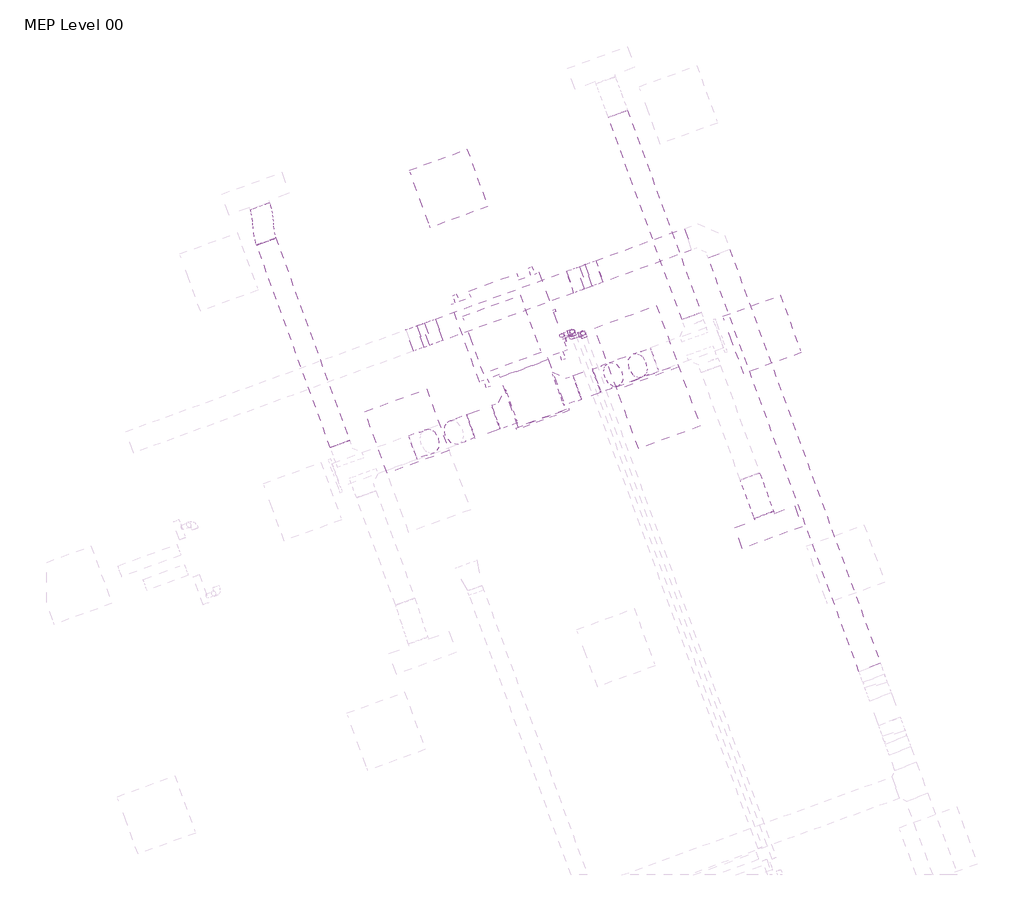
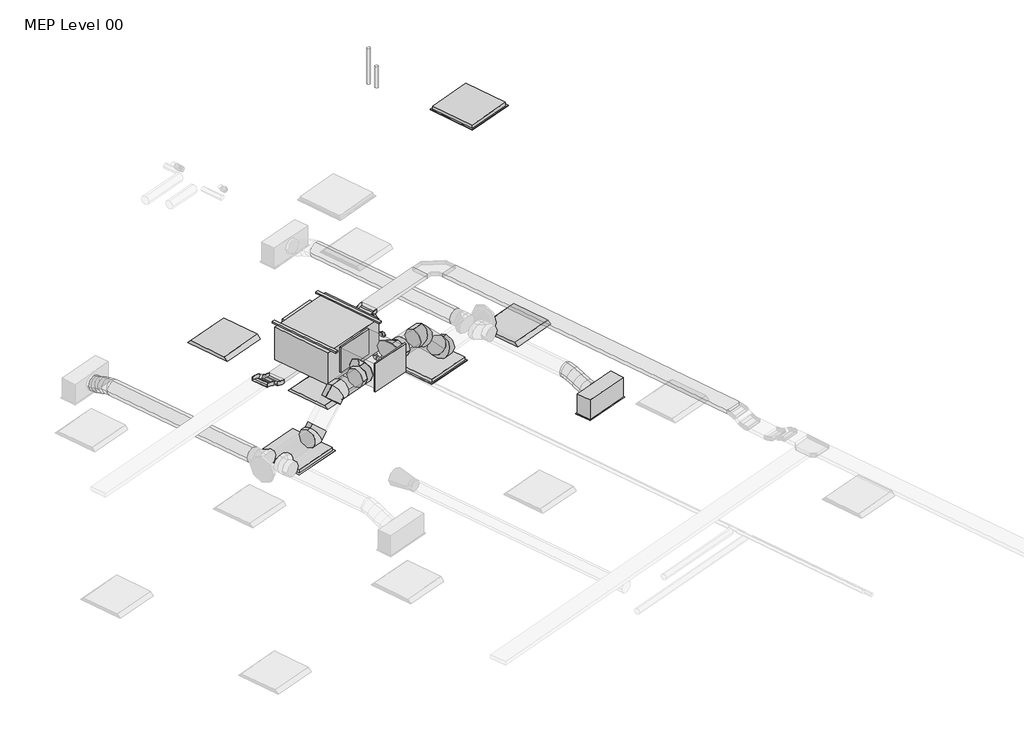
# One storey, part 32 of 33: 8 duct segments, 7 duct fittings, 6 pipe segments, 5 cable carrier segments, 4 air terminals, 4 cable carrier fittings, 4 pipe fittings, 3 light fixtures, 1 proxy.
"""IFC4 building model written with IfcOpenShell, lengths in millimetres."""

from ifc_helpers import new_model, si_unit, point, frame, frame_2d, origin, place, context, project, spatial, polyline, circle_curve, ellipse_curve, trimmed, segment, composite_curve, outline, extrude, transform, mapped, element, save
from ifc_brep_helpers import plane_surface, cylinder_surface, advanced_brep
from components import return_grille_rectangular_hosted_standard_7b12617c, supply_diffuser_with_plenum_linear_slot_hosted_8c379eed, fan_coil_unit_ceiling_ducted_chw_376_lps_233c1d69, cable_tray_vertical_inside_bend_standard_9a66f55b, cable_tray_vertical_outside_bend_standard_4df2047e, dw144_rectangular_blank_end_standard_1669e3e3, dw144_round_segmented_bend_slip_joint_standard_636bd9c1, dw144_round_shoe_branch_slip_joint_standard_4a92c8a1, dw144_round_shoe_branch_slip_joint_standard_671412f0, light_fixture_600x600_230_1c7c1157, light_fixture_600x600_230_b730b5ca, elbow_threaded_gmi_standard_b4aa7741

model = new_model("IFC4")

# Units and contexts
model_context = context("Model", 3, world=origin())
ifc_project = project(units=[si_unit("LENGTHUNIT", "METRE", prefix="MILLI")], contexts=[model_context])

# Site, building, storey
site = spatial("IfcSite", under=ifc_project)
building = spatial("IfcBuilding", under=site)
storey = spatial("IfcBuildingStorey", under=building, Name="MEP Level 00", Elevation=0.0)

# Air terminals
placement = place(None, origin())
return_grille_rectangular_hosted_standard_shape = return_grille_rectangular_hosted_standard_7b12617c(model_context)
element("IfcAirTerminal", 1, ObjectType="Return Grille - Rectangular - Hosted : Standard", at=placement, inside=storey, context=model_context, shape_type="MappedRepresentation", body=[
    mapped(return_grille_rectangular_hosted_standard_shape, transform((57415.537706, 21278.3997704, 2800.0), x_axis=(0.939692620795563, 0.34202014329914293, 0.0), y_axis=(0.34202014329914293, -0.939692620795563, 0.0), z_axis=(0.0, 0.0, -1.0))),
])
element("IfcAirTerminal", 2, ObjectType="Return Grille - Rectangular - Hosted : Standard", at=placement, inside=storey, context=model_context, shape_type="MappedRepresentation", body=[
    mapped(return_grille_rectangular_hosted_standard_shape, transform((59670.7999959, 22099.2481143, 2800.0), x_axis=(0.939692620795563, 0.34202014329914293, 0.0), y_axis=(0.34202014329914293, -0.939692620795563, 0.0), z_axis=(0.0, 0.0, -1.0))),
])
element("IfcAirTerminal", 3, ObjectType="Return Grille - Rectangular - Hosted : Standard", at=placement, inside=storey, context=model_context, shape_type="MappedRepresentation", body=[
    mapped(return_grille_rectangular_hosted_standard_shape, transform((59882.1171416, 21518.6590285, 6700.0), x_axis=(0.939692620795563, 0.34202014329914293, 0.0), y_axis=(0.34202014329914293, -0.939692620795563, 0.0), z_axis=(0.0, 0.0, -1.0))),
])
supply_diffuser_with_plenum_linear_slot_hosted_shape = supply_diffuser_with_plenum_linear_slot_hosted_8c379eed(model_context)
element("IfcAirTerminal", 4, ObjectType="Supply Diffuser with Plenum - Linear Slot - Hosted : 600mmx193.8mm-200 In Inlet  4-Slot", at=placement, inside=storey, context=model_context, shape_type="MappedRepresentation", body=[
    mapped(supply_diffuser_with_plenum_linear_slot_hosted_shape, transform((60963.8522726, 20335.1073322, 2800.0), x_axis=(0.939692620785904, 0.342020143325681, 0.0), y_axis=(0.342020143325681, -0.939692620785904, 0.0), z_axis=(0.0, 0.0, -1.0))),
])

# Proxy
fan_coil_unit_ceiling_ducted_chw_376_lps_shape = fan_coil_unit_ceiling_ducted_chw_376_lps_233c1d69(model_context)
element("IfcBuildingElementProxy", 5, Name="Fan Coil Unit - Ceiling Ducted - CHW : 376 LPS", ObjectType="Fan Coil Unit - Ceiling Ducted - CHW : 376 LPS", at=placement, inside=storey, context=model_context, shape_type="MappedRepresentation", body=[
    mapped(fan_coil_unit_ceiling_ducted_chw_376_lps_shape, transform((58128.3265173, 21761.0235029, 3215.575), x_axis=(0.9396926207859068, 0.34202014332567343, 0.0), y_axis=(-0.34202014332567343, 0.9396926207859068, 0.0), z_axis=(0.0, 0.0, 1.0))),
])

# Cable carrier fittings
cable_tray_vertical_inside_bend_standard_shape = cable_tray_vertical_inside_bend_standard_9a66f55b(model_context)
element("IfcCableCarrierFitting", 6, ObjectType="Cable Tray Vertical Inside Bend : Standard", at=placement, inside=storey, context=model_context, shape_type="MappedRepresentation", body=[
    mapped(cable_tray_vertical_inside_bend_standard_shape, transform((59079.7468169, 22764.6965755, 3148.9627355), x_axis=(0.9396926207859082, 0.34202014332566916, 0.0), y_axis=(0.0, 0.0, 1.0), z_axis=(0.34202014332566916, -0.9396926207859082, 0.0))),
])
element("IfcCableCarrierFitting", 7, ObjectType="Cable Tray Vertical Inside Bend : Standard", at=placement, inside=storey, context=model_context, shape_type="MappedRepresentation", body=[
    mapped(cable_tray_vertical_inside_bend_standard_shape, transform((57668.2710843, 22250.9614225, 3148.9627355), x_axis=(0.8137976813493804, 0.2961981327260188, -0.4999999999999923), y_axis=(0.46984631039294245, 0.1710100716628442, 0.8660254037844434), z_axis=(0.34202014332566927, -0.9396926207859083, 0.0))),
])
cable_tray_vertical_outside_bend_standard_shape = cable_tray_vertical_outside_bend_standard_4df2047e(model_context)
element("IfcCableCarrierFitting", 8, ObjectType="Cable Tray Vertical Outside Bend : Standard", at=placement, inside=storey, context=model_context, shape_type="MappedRepresentation", body=[
    mapped(cable_tray_vertical_outside_bend_standard_shape, transform((59242.5063531, 22823.9362021, 3248.9627355), x_axis=(-0.939692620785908, -0.34202014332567, 0.0), y_axis=(0.0, 0.0, -1.0000000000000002), z_axis=(0.34202014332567, -0.939692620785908, 0.0))),
])
element("IfcCableCarrierFitting", 9, ObjectType="Cable Tray Vertical Outside Bend : Standard", at=placement, inside=storey, context=model_context, shape_type="MappedRepresentation", body=[
    mapped(cable_tray_vertical_outside_bend_standard_shape, transform((57505.5115481, 22191.721796, 3248.9627355), x_axis=(-0.8137976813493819, -0.2961981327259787, 0.5000000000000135), y_axis=(-0.46984631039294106, -0.17101007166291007, -0.866025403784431), z_axis=(0.34202014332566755, -0.9396926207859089, 0.0))),
])

# Cable carrier segments
element("IfcCableCarrierSegment", 10, ObjectType="Perforated Cable Tray", at=placement, inside=storey, context=model_context, shape_type="SweptSolid", body=[
    extrude(outline(polyline([(62063.4626623, 18996.1091889), (61852.0318226, 18919.1546567), (60373.0325165, 22982.6718536), (60584.4633562, 23059.6263859), (62063.4626623, 18996.1091889)])), frame((0.0, 0.0, 3223.9627355), z_axis=(0.0, 0.0, 1.0), x_axis=(1.0, 0.0, 0.0)), (0.0, 0.0, 1.0), 50.0),
])
element("IfcCableCarrierSegment", 11, ObjectType="Perforated Cable Tray", at=placement, inside=storey, context=model_context, shape_type="SweptSolid", body=[
    extrude(outline(polyline([(60135.8638887, 23268.811753), (60212.818421, 23057.3809133), (59343.931089, 22741.1317875), (59266.9765567, 22952.5626272), (60135.8638887, 23268.811753)])), frame((0.0, 0.0, 3223.9627355), z_axis=(0.0, 0.0, 1.0), x_axis=(1.0, 0.0, 0.0)), (0.0, 0.0, 1.0), 50.0),
])
element("IfcCableCarrierSegment", 12, ObjectType="Perforated Cable Tray", at=placement, inside=storey, context=model_context, shape_type="SweptSolid", body=[
    extrude(outline(polyline([(0.0, -225.0), (0.0, 0.0), (66.0254038, 0.0), (66.0254037, -225.0), (0.0, -225.0)])), frame((59238.2156691, 22702.6545214, 3193.8184513), z_axis=(-0.46984631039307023, -0.1710100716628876, 0.8660254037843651), x_axis=(-0.8137976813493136, -0.29619813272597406, -0.5000000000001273)), (0.0, 0.0, 1.0), 50.0),
])
element("IfcCableCarrierSegment", 13, ObjectType="Perforated Cable Tray", at=placement, inside=storey, context=model_context, shape_type="SweptSolid", body=[
    extrude(outline(polyline([(58978.322081, 22847.5009901), (59055.2766133, 22636.0701504), (57769.6958202, 22168.157008), (57692.7412879, 22379.5878476), (58978.322081, 22847.5009901)])), frame((0.0, 0.0, 3123.9627355), z_axis=(0.0, 0.0, 1.0), x_axis=(1.0, 0.0, 0.0)), (0.0, 0.0, 1.0), 50.0),
])
element("IfcCableCarrierSegment", 14, ObjectType="Perforated Cable Tray", at=placement, inside=storey, context=model_context, shape_type="SweptSolid", body=[
    extrude(outline(polyline([(0.0, -224.9999999), (0.0, 0.0), (66.0254038, 1e-07), (66.0254038, -224.9999999), (0.0, -224.9999999)])), frame((57640.4880848, 22121.1292383, 3160.8057494), z_axis=(0.4698463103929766, 0.17101007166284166, 0.8660254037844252), x_axis=(-0.8137976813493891, -0.29619813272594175, 0.5000000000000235)), (0.0, 0.0, 1.0), 50.0),
])

# Duct fittings
dw144_rectangular_blank_end_standard_shape = dw144_rectangular_blank_end_standard_1669e3e3(model_context)
element("IfcDuctFitting", 15, ObjectType="DW144 Rectangular Blank End : Standard", at=placement, inside=storey, context=model_context, shape_type="MappedRepresentation", body=[
    mapped(dw144_rectangular_blank_end_standard_shape, transform((58744.3549616, 21405.2626341, 3469.575), x_axis=(0.34202014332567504, -0.9396926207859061, 0.0), y_axis=(0.9396926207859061, 0.34202014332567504, 0.0), z_axis=(0.0, 0.0, 1.0))),
])
dw144_round_segmented_bend_slip_joint_standard_shape = dw144_round_segmented_bend_slip_joint_standard_636bd9c1(model_context)
element("IfcDuctFitting", 16, ObjectType="DW144 Round Segmented Bend - Slip Joint : Standard", at=placement, inside=storey, context=model_context, shape_type="MappedRepresentation", body=[
    mapped(dw144_round_segmented_bend_slip_joint_standard_shape, transform((59747.3782824, 21945.6768101, 3072.2088531), x_axis=(0.6644630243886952, 0.24184476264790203, -0.7071067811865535), y_axis=(0.6644630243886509, 0.2418447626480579, 0.7071067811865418), z_axis=(0.3420201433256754, -0.939692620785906, 0.0))),
])
element("IfcDuctFitting", 17, ObjectType="DW144 Round Segmented Bend - Slip Joint : Standard", at=placement, inside=storey, context=model_context, shape_type="MappedRepresentation", body=[
    mapped(dw144_round_segmented_bend_slip_joint_standard_shape, transform((59373.9762464, 21809.7695836, 3469.575), x_axis=(0.9396926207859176, 0.3420201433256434, 0.0), y_axis=(0.0, 0.0, -1.0), z_axis=(-0.3420201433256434, 0.9396926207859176, 0.0))),
])
element("IfcDuctFitting", 18, ObjectType="DW144 Round Segmented Bend - Slip Joint : Standard", at=placement, inside=storey, context=model_context, shape_type="MappedRepresentation", body=[
    mapped(dw144_round_segmented_bend_slip_joint_standard_shape, transform((57572.2414269, 21153.9917392, 3072.2088531), x_axis=(-0.6644630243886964, -0.24184476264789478, -0.7071067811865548), y_axis=(-0.6644630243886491, -0.24184476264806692, 0.7071067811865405), z_axis=(-0.34202014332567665, 0.9396926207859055, 0.0))),
])
element("IfcDuctFitting", 19, ObjectType="DW144 Round Segmented Bend - Slip Joint : Standard", at=placement, inside=storey, context=model_context, shape_type="MappedRepresentation", body=[
    mapped(dw144_round_segmented_bend_slip_joint_standard_shape, transform((57945.6434628, 21289.8989657, 3469.575), x_axis=(-0.9396926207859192, -0.3420201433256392, 0.0), y_axis=(0.0, 0.0, -1.0000000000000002), z_axis=(0.3420201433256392, -0.9396926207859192, 0.0))),
])
dw144_round_shoe_branch_slip_joint_standard_shape = dw144_round_shoe_branch_slip_joint_standard_4a92c8a1(model_context)
element("IfcDuctFitting", 20, ObjectType="DW144 Round Shoe Branch - Slip Joint : Standard", at=placement, inside=storey, context=model_context, shape_type="MappedRepresentation", body=[
    mapped(dw144_round_shoe_branch_slip_joint_standard_shape, transform((58922.9237884, 21645.5999148, 3469.575), x_axis=(0.9396926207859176, 0.3420201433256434, 0.0), y_axis=(0.3420201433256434, -0.9396926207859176, 0.0), z_axis=(0.0, 0.0, -1.0))),
])
dw144_round_shoe_branch_slip_joint_standard_2_shape = dw144_round_shoe_branch_slip_joint_standard_671412f0(model_context)
element("IfcDuctFitting", 21, ObjectType="DW144 Round Shoe Branch - Slip Joint : Standard", at=placement, inside=storey, context=model_context, shape_type="MappedRepresentation", body=[
    mapped(dw144_round_shoe_branch_slip_joint_standard_2_shape, transform((58453.077478, 21474.5898431, 3469.575), x_axis=(-0.9396926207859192, -0.3420201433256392, 0.0), y_axis=(-0.3420201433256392, 0.9396926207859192, 0.0), z_axis=(0.0, 0.0, -1.0))),
])

# Duct segments
element("IfcDuctSegment", 22, ObjectType="DW144 Flanged Med Radius Bend / Shoe Branch", at=placement, inside=storey, context=model_context, shape_type="SweptSolid", body=[
    extrude(outline(polyline([(58331.71814, 21808.0218841), (58801.5644504, 21979.0319557), (58979.2781168, 21490.76767), (58509.4318064, 21319.7575983), (58331.71814, 21808.0218841)])), frame((0.0, 0.0, 3294.575), z_axis=(0.0, 0.0, 1.0), x_axis=(1.0, 0.0, 0.0)), (0.0, 0.0, 1.0), 350.0),
])
element("IfcDuctSegment", 23, ObjectType="DW144 Segmented Bend / Shoe Branch", at=placement, inside=storey, context=model_context, shape_type="SweptSolid", body=[
    extrude(outline(composite_curve([segment(trimmed(circle_curve(frame_2d((0.0, 100.0)), 100.0), [point((100.0, 100.0))], [point((0.0, 0.0))], False, "CARTESIAN"), True, "CONTINUOUS"), segment(trimmed(circle_curve(frame_2d((0.0, 100.0)), 100.0), [point((0.0, 0.0))], [point((-100.0, 100.0))], False, "CARTESIAN"), True, "CONTINUOUS"), segment(trimmed(circle_curve(frame_2d((0.0, 100.0)), 100.0), [point((-100.0, 100.0))], [point((0.0, 200.0))], False, "CARTESIAN"), True, "CONTINUOUS"), segment(trimmed(circle_curve(frame_2d((0.0, 100.0)), 100.0), [point((0.0, 200.0))], [point((100.0, 100.0))], False, "CARTESIAN"), True, "CONTINUOUS")], self_intersect=False)), frame((60209.8692558, 22406.6586454, 3172.2088531), z_axis=(-0.3420201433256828, 0.9396926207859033, 0.0), x_axis=(0.9396926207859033, 0.3420201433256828, 0.0)), (0.0, 0.0, 1.0), 2117.1993191),
])
element("IfcDuctSegment", 24, ObjectType="DW144 Segmented Bend / Shoe Branch", at=placement, inside=storey, context=model_context, shape_type="SweptSolid", body=[
    extrude(outline(composite_curve([segment(trimmed(circle_curve(frame_2d((0.0, -100.0)), 100.0), [point((-100.0, -100.0))], [point((0.0, 0.0))], False, "CARTESIAN"), True, "CONTINUOUS"), segment(trimmed(circle_curve(frame_2d((0.0, -100.0)), 100.0), [point((0.0, 0.0))], [point((99.9999999, -100.0))], False, "CARTESIAN"), True, "CONTINUOUS"), segment(trimmed(circle_curve(frame_2d((0.0, -100.0)), 100.0), [point((99.9999999, -100.0))], [point((0.0, -200.0))], False, "CARTESIAN"), True, "CONTINUOUS"), segment(trimmed(circle_curve(frame_2d((0.0, -100.0)), 100.0), [point((0.0, -200.0))], [point((-100.0, -100.0))], False, "CARTESIAN"), True, "CONTINUOUS")], self_intersect=False)), frame((56758.4236669, 21150.4351859, 2972.2088531), z_axis=(-0.3420201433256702, 0.9396926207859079, 0.0), x_axis=(0.9396926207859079, 0.3420201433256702, 0.0)), (0.0, 0.0, 1.0), 2117.1993191),
])
element("IfcDuctSegment", 25, ObjectType="DW144 Segmented Bend / Shoe Branch", at=placement, inside=storey, context=model_context, shape_type="SweptSolid", body=[
    extrude(outline(composite_curve([segment(trimmed(circle_curve(frame_2d((0.0, 125.0)), 125.0), [point((125.0, 125.0))], [point((0.0, 0.0))], False, "CARTESIAN"), True, "CONTINUOUS"), segment(trimmed(circle_curve(frame_2d((0.0, 125.0)), 125.0), [point((0.0, 0.0))], [point((-125.0, 125.0))], False, "CARTESIAN"), True, "CONTINUOUS"), segment(trimmed(circle_curve(frame_2d((0.0, 125.0)), 125.0), [point((-125.0, 125.0))], [point((0.0, 250.0))], False, "CARTESIAN"), True, "CONTINUOUS"), segment(trimmed(circle_curve(frame_2d((0.0, 125.0)), 125.0), [point((0.0, 250.0))], [point((125.0, 125.0))], False, "CARTESIAN"), True, "CONTINUOUS")], self_intersect=False)), frame((59087.3699971, 21705.4534398, 3594.575), z_axis=(0.9396926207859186, 0.3420201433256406, 0.0), x_axis=(0.3420201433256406, -0.9396926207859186, 0.0)), (0.0, 0.0, 1.0), 201.4466094),
])
element("IfcDuctSegment", 26, ObjectType="DW144 Segmented Bend / Shoe Branch", at=placement, inside=storey, context=model_context, shape_type="SweptSolid", body=[
    extrude(outline(composite_curve([segment(trimmed(circle_curve(frame_2d((0.0, -125.0)), 125.0), [point((-125.0, -125.0))], [point((0.0, 0.0))], False, "CARTESIAN"), True, "CONTINUOUS"), segment(trimmed(circle_curve(frame_2d((0.0, -125.0)), 125.0), [point((0.0, 0.0))], [point((125.0, -125.0))], False, "CARTESIAN"), True, "CONTINUOUS"), segment(trimmed(circle_curve(frame_2d((0.0, -125.0)), 125.0), [point((125.0, -125.0))], [point((0.0, -250.0))], False, "CARTESIAN"), True, "CONTINUOUS"), segment(trimmed(circle_curve(frame_2d((0.0, -125.0)), 125.0), [point((0.0, -250.0))], [point((-125.0, -125.0))], False, "CARTESIAN"), True, "CONTINUOUS")], self_intersect=False)), frame((58042.9518198, 21325.3163112, 3344.575), z_axis=(0.9396926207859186, 0.3420201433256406, 0.0), x_axis=(0.3420201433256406, -0.9396926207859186, 0.0)), (0.0, 0.0, 1.0), 261.4466094),
])
element("IfcDuctSegment", 27, ObjectType="DW144 Segmented Bend / Shoe Branch", at=placement, inside=storey, context=model_context, shape_type="SweptSolid", body=[
    extrude(outline(composite_curve([segment(trimmed(circle_curve(frame_2d((0.0, -125.0)), 125.0), [point((57.2076922, -236.1408113))], [point((-111.1408114, -182.2076922))], False, "CARTESIAN"), True, "CONTINUOUS"), segment(trimmed(circle_curve(frame_2d((0.0, -125.0)), 125.0), [point((-111.1408114, -182.2076922))], [point((-57.2076923, -13.8591886))], False, "CARTESIAN"), True, "CONTINUOUS"), segment(trimmed(circle_curve(frame_2d((0.0, -125.0)), 125.0), [point((-57.2076923, -13.8591886))], [point((111.1408113, -67.7923077))], False, "CARTESIAN"), True, "CONTINUOUS"), segment(trimmed(circle_curve(frame_2d((0.0, -125.0)), 125.0), [point((111.1408113, -67.7923077))], [point((57.2076922, -236.1408113))], False, "CARTESIAN"), True, "CONTINUOUS")], self_intersect=False)), frame((59678.5708833, 22038.9065459, 3185.884105), z_axis=(-0.6644630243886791, -0.2418447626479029, 0.7071067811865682), x_axis=(0.7473211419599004, -0.21503058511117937, 0.6287073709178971)), (0.0, 0.0, 1.0), 354.8538129),
])
element("IfcDuctSegment", 28, ObjectType="Flex - Round", at=placement, inside=storey, context=model_context, shape_type="AdvancedBrep", body=[
    advanced_brep(
    [(60875.9700465, 20868.9422039, 3072.2088531), (60782.0007844, 20834.7401896, 2972.2088531), (60688.0315224, 20800.5381753, 3072.2088531), (60782.0007844, 20834.7401896, 3172.2088531), (60882.0280653, 20852.2979342, 3072.2088531), (60784.3796055, 20828.2044324, 2972.2088531), (60694.0895411, 20783.8939055, 3072.2088531), (60791.7380009, 20807.9874073, 3172.2088531), (61013.7351382, 20490.4357254, 2954.4), (60919.7658761, 20456.233711, 3054.4), (60825.796614, 20422.0316967, 2954.4), (60919.7658761, 20456.233711, 2854.4), (60910.9523954, 20772.8289904, 3053.8012198), (60806.8015614, 20766.600615, 2957.9393734), (60723.0138712, 20704.4249618, 3053.8012198), (60827.1647052, 20710.6533371, 3149.6630662), (60944.8525924, 20679.6889646, 3013.3044266), (60837.9473613, 20681.0282329, 2920.7329518), (60756.9140682, 20611.284936, 3013.3044266), (60863.8192992, 20609.9456677, 3105.8759013), (60978.7527894, 20586.5489389, 2972.8076333), (60874.6019553, 20580.3205635, 2876.9457869), (60790.8142652, 20518.1449102, 2972.8076333), (60894.9650992, 20524.3732856, 3068.6694797), (61007.6771194, 20507.0799951, 2954.4), (60910.0286597, 20482.9864933, 2854.4), (60819.7385953, 20438.6759664, 2954.4), (60917.387055, 20462.7694682, 3054.4)],
    [
        (0, 1, circle_curve(frame((60782.0007844, 20834.7401896, 3072.2088531), z_axis=(-0.3420201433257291, 0.9396926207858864, 0.0), x_axis=(0.9396926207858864, 0.3420201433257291, 0.0)), 100.0)),
        (1, 2, circle_curve(frame((60782.0007844, 20834.7401896, 3072.2088531), z_axis=(-0.3420201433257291, 0.9396926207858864, 0.0), x_axis=(0.9396926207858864, 0.3420201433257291, 0.0)), 100.0)),
        (2, 3, circle_curve(frame((60782.0007844, 20834.7401896, 3072.2088531), z_axis=(-0.3420201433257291, 0.9396926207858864, 0.0), x_axis=(0.9396926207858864, 0.3420201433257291, 0.0)), 100.0)),
        (3, 0, circle_curve(frame((60782.0007844, 20834.7401896, 3072.2088531), z_axis=(-0.3420201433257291, 0.9396926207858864, 0.0), x_axis=(0.9396926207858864, 0.3420201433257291, 0.0)), 100.0)),
        (0, 4),
        (4, 5, ellipse_curve(frame((60788.0588032, 20818.0959199, 3072.2088531), z_axis=(-0.34005825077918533, 0.9343023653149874, 0.1069554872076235), x_axis=(-0.03658093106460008, 0.10050528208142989, -0.9942638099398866)), 100.5769284, 100.0)),
        (5, 1),
        (5, 6, ellipse_curve(frame((60788.0588032, 20818.0959199, 3072.2088531), z_axis=(-0.34005825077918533, 0.9343023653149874, 0.1069554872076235), x_axis=(-0.03658093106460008, 0.10050528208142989, -0.9942638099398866)), 100.5769284, 100.0)),
        (6, 2),
        (6, 7, ellipse_curve(frame((60788.0588032, 20818.0959199, 3072.2088531), z_axis=(-0.34005825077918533, 0.9343023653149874, 0.1069554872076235), x_axis=(-0.03658093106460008, 0.10050528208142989, -0.9942638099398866)), 100.5769284, 100.0)),
        (7, 3),
        (7, 4, ellipse_curve(frame((60788.0588032, 20818.0959199, 3072.2088531), z_axis=(-0.34005825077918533, 0.9343023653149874, 0.1069554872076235), x_axis=(-0.03658093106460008, 0.10050528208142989, -0.9942638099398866)), 100.5769284, 100.0)),
        (8, 9, circle_curve(frame((60919.7658761, 20456.233711, 2954.4), z_axis=(0.3420201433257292, -0.9396926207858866, 0.0), x_axis=(0.9396926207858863, 0.34202014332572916, 0.0)), 100.0)),
        (9, 10, circle_curve(frame((60919.7658761, 20456.233711, 2954.4), z_axis=(0.3420201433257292, -0.9396926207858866, 0.0), x_axis=(0.9396926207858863, 0.34202014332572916, 0.0)), 100.0)),
        (10, 11, circle_curve(frame((60919.7658761, 20456.233711, 2954.4), z_axis=(0.3420201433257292, -0.9396926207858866, 0.0), x_axis=(0.9396926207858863, 0.34202014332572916, 0.0)), 100.0)),
        (11, 8, circle_curve(frame((60919.7658761, 20456.233711, 2954.4), z_axis=(0.3420201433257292, -0.9396926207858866, 0.0), x_axis=(0.9396926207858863, 0.34202014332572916, 0.0)), 100.0)),
        (4, 12),
        (12, 13, ellipse_curve(frame((60816.9831333, 20738.6269761, 3053.8012198), z_axis=(-0.32663313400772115, 0.897417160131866, 0.2965691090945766), x_axis=(-0.10143260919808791, 0.2786838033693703, -0.9550113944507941)), 100.3776991, 100.0)),
        (13, 5),
        (13, 14, ellipse_curve(frame((60816.9831333, 20738.6269761, 3053.8012198), z_axis=(-0.32663313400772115, 0.897417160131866, 0.2965691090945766), x_axis=(-0.10143260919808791, 0.2786838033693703, -0.9550113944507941)), 100.3776991, 100.0)),
        (14, 6),
        (14, 15, ellipse_curve(frame((60816.9831333, 20738.6269761, 3053.8012198), z_axis=(-0.32663313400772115, 0.897417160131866, 0.2965691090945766), x_axis=(-0.10143260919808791, 0.2786838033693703, -0.9550113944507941)), 100.3776991, 100.0)),
        (15, 7),
        (15, 12, ellipse_curve(frame((60816.9831333, 20738.6269761, 3053.8012198), z_axis=(-0.32663313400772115, 0.897417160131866, 0.2965691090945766), x_axis=(-0.10143260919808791, 0.2786838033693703, -0.9550113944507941)), 100.3776991, 100.0)),
        (12, 16),
        (16, 17, circle_curve(frame((60850.8833303, 20645.4869503, 3013.3044266), z_axis=(-0.31661309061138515, 0.8698873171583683, 0.3782224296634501), x_axis=(0.939692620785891, 0.34202014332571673, 0.0)), 100.0)),
        (17, 13),
        (17, 18, circle_curve(frame((60850.8833303, 20645.4869503, 3013.3044266), z_axis=(-0.31661309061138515, 0.8698873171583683, 0.3782224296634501), x_axis=(0.939692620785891, 0.34202014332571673, 0.0)), 100.0)),
        (18, 14),
        (18, 19, circle_curve(frame((60850.8833303, 20645.4869503, 3013.3044266), z_axis=(-0.31661309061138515, 0.8698873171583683, 0.3782224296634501), x_axis=(0.939692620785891, 0.34202014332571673, 0.0)), 100.0)),
        (19, 15),
        (19, 16, circle_curve(frame((60850.8833303, 20645.4869503, 3013.3044266), z_axis=(-0.31661309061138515, 0.8698873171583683, 0.3782224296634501), x_axis=(0.939692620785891, 0.34202014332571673, 0.0)), 100.0)),
        (16, 20),
        (20, 21, ellipse_curve(frame((60884.7835273, 20552.3469245, 2972.8076333), z_axis=(-0.3266331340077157, 0.897417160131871, 0.29656910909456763), x_axis=(0.10143260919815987, -0.2786838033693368, 0.9550113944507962)), 100.3776991, 100.0)),
        (21, 17),
        (21, 22, ellipse_curve(frame((60884.7835273, 20552.3469245, 2972.8076333), z_axis=(-0.3266331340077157, 0.897417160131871, 0.29656910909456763), x_axis=(0.10143260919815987, -0.2786838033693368, 0.9550113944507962)), 100.3776991, 100.0)),
        (22, 18),
        (22, 23, ellipse_curve(frame((60884.7835273, 20552.3469245, 2972.8076333), z_axis=(-0.3266331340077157, 0.897417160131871, 0.29656910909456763), x_axis=(0.10143260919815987, -0.2786838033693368, 0.9550113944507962)), 100.3776991, 100.0)),
        (23, 19),
        (23, 20, ellipse_curve(frame((60884.7835273, 20552.3469245, 2972.8076333), z_axis=(-0.3266331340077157, 0.897417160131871, 0.29656910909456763), x_axis=(0.10143260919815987, -0.2786838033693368, 0.9550113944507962)), 100.3776991, 100.0)),
        (20, 24),
        (24, 25, ellipse_curve(frame((60913.7078574, 20472.8779808, 2954.4), z_axis=(-0.3400582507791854, 0.9343023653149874, 0.10695548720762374), x_axis=(0.03658093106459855, -0.10050528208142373, 0.9942638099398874)), 100.5769284, 100.0)),
        (25, 21),
        (25, 26, ellipse_curve(frame((60913.7078574, 20472.8779808, 2954.4), z_axis=(-0.3400582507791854, 0.9343023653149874, 0.10695548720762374), x_axis=(0.03658093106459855, -0.10050528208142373, 0.9942638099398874)), 100.5769284, 100.0)),
        (26, 22),
        (26, 27, ellipse_curve(frame((60913.7078574, 20472.8779808, 2954.4), z_axis=(-0.3400582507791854, 0.9343023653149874, 0.10695548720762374), x_axis=(0.03658093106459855, -0.10050528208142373, 0.9942638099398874)), 100.5769284, 100.0)),
        (27, 23),
        (27, 24, ellipse_curve(frame((60913.7078574, 20472.8779808, 2954.4), z_axis=(-0.3400582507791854, 0.9343023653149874, 0.10695548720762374), x_axis=(0.03658093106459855, -0.10050528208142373, 0.9942638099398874)), 100.5769284, 100.0)),
        (24, 8),
        (11, 25),
        (10, 26),
        (9, 27),
    ],
    [
        plane_surface(frame((60782.0007844, 20834.7401896, 2972.2088531), z_axis=(-0.3420201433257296, 0.9396926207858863, 0.0), x_axis=(0.9396926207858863, 0.3420201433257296, 0.0))),
        cylinder_surface(frame((60782.0007844, 20834.7401896, 3072.2088531), z_axis=(-0.3420201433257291, 0.9396926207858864, 0.0), x_axis=(0.9396926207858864, 0.3420201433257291, 0.0)), 100.0),
        plane_surface(frame((60919.7658761, 20456.233711, 2854.4), z_axis=(0.3420201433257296, -0.9396926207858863, 0.0), x_axis=(0.9396926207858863, 0.3420201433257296, 0.0))),
        cylinder_surface(frame((60788.0588032, 20818.0959199, 3072.2088531), z_axis=(-0.3341950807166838, 0.9181934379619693, 0.21268394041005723), x_axis=(0.9396926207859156, 0.342020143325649, 0.0)), 100.0),
        cylinder_surface(frame((60816.9831333, 20738.6269761, 3053.8012198), z_axis=(-0.31661309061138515, 0.8698873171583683, 0.3782224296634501), x_axis=(0.939692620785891, 0.34202014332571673, 0.0)), 100.0),
        cylinder_surface(frame((60850.8833303, 20645.4869503, 3013.3044266), z_axis=(-0.3166130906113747, 0.8698873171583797, 0.37822242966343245), x_axis=(0.9396926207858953, 0.3420201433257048, 0.0)), 100.0),
        cylinder_surface(frame((60884.7835273, 20552.3469245, 2972.8076333), z_axis=(-0.3341950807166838, 0.9181934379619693, 0.21268394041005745), x_axis=(0.9396926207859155, 0.3420201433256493, 0.0)), 100.0),
        cylinder_surface(frame((60913.7078574, 20472.8779808, 2954.4), z_axis=(-0.34202014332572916, 0.9396926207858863, 0.0), x_axis=(0.9396926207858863, 0.34202014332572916, 0.0)), 100.0),
    ],
    [
        (0, [[1, 2, 3, 4]]),
        (1, [[-1, 5, 6, 7]]),
        (1, [[-2, -7, 8, 9]]),
        (1, [[-3, -9, 10, 11]]),
        (1, [[-4, -11, 12, -5]]),
        (2, [[13, 14, 15, 16]]),
        (3, [[-6, 17, 18, 19]]),
        (3, [[-8, -19, 20, 21]]),
        (3, [[-10, -21, 22, 23]]),
        (3, [[-12, -23, 24, -17]]),
        (4, [[-18, 25, 26, 27]]),
        (4, [[-20, -27, 28, 29]]),
        (4, [[-22, -29, 30, 31]]),
        (4, [[-24, -31, 32, -25]]),
        (5, [[-26, 33, 34, 35]]),
        (5, [[-28, -35, 36, 37]]),
        (5, [[-30, -37, 38, 39]]),
        (5, [[-32, -39, 40, -33]]),
        (6, [[-34, 41, 42, 43]]),
        (6, [[-36, -43, 44, 45]]),
        (6, [[-38, -45, 46, 47]]),
        (6, [[-40, -47, 48, -41]]),
        (7, [[-42, 49, -16, 50]]),
        (7, [[-44, -50, -15, 51]]),
        (7, [[-46, -51, -14, 52]]),
        (7, [[-48, -52, -13, -49]]),
    ],
),
])
element("IfcDuctSegment", 29, ObjectType="Flex - Round", at=placement, inside=storey, context=model_context, shape_type="AdvancedBrep", body=[
    advanced_brep(
    [(55940.3295902, 23105.7497485, 3072.2088531), (56034.2988523, 23139.9517628, 2972.2088531), (56128.2681143, 23174.1537771, 3072.2088531), (56034.2988523, 23139.9517628, 3172.2088531), (55932.6991352, 23126.7142514, 3072.2088531), (56032.3145452, 23145.4036018, 2972.2088531), (56124.5004429, 23184.5053694, 3072.2088531), (56024.8850329, 23165.816019, 3172.2088531), (55878.3848809, 23455.0293673, 2954.4), (55972.354143, 23489.2313817, 3054.4), (56066.3234051, 23523.433396, 2954.4), (55972.354143, 23489.2313817, 2854.4), (55917.3295771, 23190.9348996, 3057.7411781), (56023.8255964, 23180.8740941, 2964.2180345), (56113.8382189, 23229.0567437, 3062.1722867), (56007.3421996, 23239.1175493, 3155.6954303), (55907.3100581, 23266.6974316, 3026.0114711), (56016.126005, 23239.0945077, 2939.8350497), (56105.4058666, 23292.8179241, 3035.4688025), (55996.5899197, 23320.4208481, 3121.645224), (55901.2471286, 23336.3652203, 2991.1400506), (56010.0630756, 23308.7622964, 2904.9636291), (56099.3429372, 23362.4857128, 3000.597382), (55990.5269903, 23390.0886367, 3086.7738035), (55892.8147764, 23400.1264007, 2964.4365665), (55999.3107957, 23390.0655952, 2870.9134228), (56089.3234182, 23438.2482449, 2968.867675), (55982.8273989, 23448.3090504, 3062.3908187), (55882.1525524, 23444.6777751, 2954.4), (55981.7679624, 23463.3671255, 2854.4), (56073.9538601, 23502.4688931, 2954.4), (55974.3384501, 23483.7795427, 3054.4)],
    [
        (0, 1, circle_curve(frame((56034.2988523, 23139.9517628, 3072.2088531), z_axis=(0.34202014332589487, -0.9396926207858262, 0.0), x_axis=(-0.9396926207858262, -0.34202014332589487, 0.0)), 100.0)),
        (1, 2, circle_curve(frame((56034.2988523, 23139.9517628, 3072.2088531), z_axis=(0.34202014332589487, -0.9396926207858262, 0.0), x_axis=(-0.9396926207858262, -0.34202014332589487, 0.0)), 100.0)),
        (2, 3, circle_curve(frame((56034.2988523, 23139.9517628, 3072.2088531), z_axis=(0.34202014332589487, -0.9396926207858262, 0.0), x_axis=(-0.9396926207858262, -0.34202014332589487, 0.0)), 100.0)),
        (3, 0, circle_curve(frame((56034.2988523, 23139.9517628, 3072.2088531), z_axis=(0.34202014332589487, -0.9396926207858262, 0.0), x_axis=(-0.9396926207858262, -0.34202014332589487, 0.0)), 100.0)),
        (0, 4),
        (4, 5, ellipse_curve(frame((56028.599789, 23155.6098104, 3072.2088531), z_axis=(0.2868145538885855, -0.9519007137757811, 0.10780743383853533), x_axis=(0.4718263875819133, 0.04242446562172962, -0.8806702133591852)), 100.746488, 100.0)),
        (5, 1),
        (5, 6, ellipse_curve(frame((56028.599789, 23155.6098104, 3072.2088531), z_axis=(0.2868145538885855, -0.9519007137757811, 0.10780743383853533), x_axis=(0.4718263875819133, 0.04242446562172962, -0.8806702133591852)), 100.746488, 100.0)),
        (6, 2),
        (6, 7, ellipse_curve(frame((56028.599789, 23155.6098104, 3072.2088531), z_axis=(0.2868145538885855, -0.9519007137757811, 0.10780743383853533), x_axis=(0.4718263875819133, 0.04242446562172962, -0.8806702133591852)), 100.746488, 100.0)),
        (7, 3),
        (7, 4, ellipse_curve(frame((56028.599789, 23155.6098104, 3072.2088531), z_axis=(0.2868145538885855, -0.9519007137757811, 0.10780743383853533), x_axis=(0.4718263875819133, 0.04242446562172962, -0.8806702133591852)), 100.746488, 100.0)),
        (8, 9, circle_curve(frame((55972.354143, 23489.2313817, 2954.4), z_axis=(-0.34202014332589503, 0.9396926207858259, 0.0), x_axis=(-0.9396926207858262, -0.3420201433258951, 0.0)), 100.0)),
        (9, 10, circle_curve(frame((55972.354143, 23489.2313817, 2954.4), z_axis=(-0.34202014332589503, 0.9396926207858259, 0.0), x_axis=(-0.9396926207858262, -0.3420201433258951, 0.0)), 100.0)),
        (10, 11, circle_curve(frame((55972.354143, 23489.2313817, 2954.4), z_axis=(-0.34202014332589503, 0.9396926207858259, 0.0), x_axis=(-0.9396926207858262, -0.3420201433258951, 0.0)), 100.0)),
        (11, 8, circle_curve(frame((55972.354143, 23489.2313817, 2954.4), z_axis=(-0.34202014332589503, 0.9396926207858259, 0.0), x_axis=(-0.9396926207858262, -0.3420201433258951, 0.0)), 100.0)),
        (4, 12),
        (12, 13, ellipse_curve(frame((56015.583898, 23209.9958217, 3059.9567324), z_axis=(0.1751260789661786, -0.9376352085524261, 0.30028498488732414), x_axis=(0.5236540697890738, -0.1695730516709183, -0.8348840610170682)), 100.5188435, 100.0)),
        (13, 5),
        (13, 14, ellipse_curve(frame((56015.583898, 23209.9958217, 3059.9567324), z_axis=(0.1751260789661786, -0.9376352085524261, 0.30028498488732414), x_axis=(0.5236540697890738, -0.1695730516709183, -0.8348840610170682)), 100.5188435, 100.0)),
        (14, 6),
        (14, 15, ellipse_curve(frame((56015.583898, 23209.9958217, 3059.9567324), z_axis=(0.1751260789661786, -0.9376352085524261, 0.30028498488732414), x_axis=(0.5236540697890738, -0.1695730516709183, -0.8348840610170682)), 100.5188435, 100.0)),
        (15, 7),
        (15, 12, ellipse_curve(frame((56015.583898, 23209.9958217, 3059.9567324), z_axis=(0.1751260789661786, -0.9376352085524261, 0.30028498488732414), x_axis=(0.5236540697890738, -0.1695730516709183, -0.8348840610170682)), 100.5188435, 100.0)),
        (12, 16),
        (16, 17, ellipse_curve(frame((56006.3579624, 23279.7576779, 3030.7401368), z_axis=(0.09941622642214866, -0.9042889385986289, 0.4151842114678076), x_axis=(0.5431382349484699, -0.30029372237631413, -0.7841074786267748)), 100.0802707, 100.0)),
        (17, 13),
        (17, 18, ellipse_curve(frame((56006.3579624, 23279.7576779, 3030.7401368), z_axis=(0.09941622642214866, -0.9042889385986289, 0.4151842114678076), x_axis=(0.5431382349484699, -0.30029372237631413, -0.7841074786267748)), 100.0802707, 100.0)),
        (18, 14),
        (18, 19, ellipse_curve(frame((56006.3579624, 23279.7576779, 3030.7401368), z_axis=(0.09941622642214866, -0.9042889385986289, 0.4151842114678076), x_axis=(0.5431382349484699, -0.30029372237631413, -0.7841074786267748)), 100.0802707, 100.0)),
        (19, 15),
        (19, 16, ellipse_curve(frame((56006.3579624, 23279.7576779, 3030.7401368), z_axis=(0.09941622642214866, -0.9042889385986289, 0.4151842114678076), x_axis=(0.5431382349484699, -0.30029372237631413, -0.7841074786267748)), 100.0802707, 100.0)),
        (16, 20),
        (20, 21, ellipse_curve(frame((56000.2950329, 23349.4254666, 2995.8687163), z_axis=(0.09941622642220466, -0.9042889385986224, 0.4151842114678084), x_axis=(-0.543138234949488, 0.3002937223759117, 0.7841074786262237)), 100.0802707, 100.0)),
        (21, 17),
        (21, 22, ellipse_curve(frame((56000.2950329, 23349.4254666, 2995.8687163), z_axis=(0.09941622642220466, -0.9042889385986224, 0.4151842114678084), x_axis=(-0.543138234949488, 0.3002937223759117, 0.7841074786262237)), 100.0802707, 100.0)),
        (22, 18),
        (22, 23, ellipse_curve(frame((56000.2950329, 23349.4254666, 2995.8687163), z_axis=(0.09941622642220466, -0.9042889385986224, 0.4151842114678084), x_axis=(-0.543138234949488, 0.3002937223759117, 0.7841074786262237)), 100.0802707, 100.0)),
        (23, 19),
        (23, 20, ellipse_curve(frame((56000.2950329, 23349.4254666, 2995.8687163), z_axis=(0.09941622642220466, -0.9042889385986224, 0.4151842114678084), x_axis=(-0.543138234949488, 0.3002937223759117, 0.7841074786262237)), 100.0802707, 100.0)),
        (20, 24),
        (24, 25, ellipse_curve(frame((55991.0690973, 23419.1873228, 2966.6521207), z_axis=(0.1751260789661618, -0.93763520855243, 0.3002849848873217), x_axis=(-0.5236540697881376, 0.16957305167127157, 0.8348840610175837)), 100.5188435, 100.0)),
        (25, 21),
        (25, 26, ellipse_curve(frame((55991.0690973, 23419.1873228, 2966.6521207), z_axis=(0.1751260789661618, -0.93763520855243, 0.3002849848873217), x_axis=(-0.5236540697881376, 0.16957305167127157, 0.8348840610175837)), 100.5188435, 100.0)),
        (26, 22),
        (26, 27, ellipse_curve(frame((55991.0690973, 23419.1873228, 2966.6521207), z_axis=(0.1751260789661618, -0.93763520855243, 0.3002849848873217), x_axis=(-0.5236540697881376, 0.16957305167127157, 0.8348840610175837)), 100.5188435, 100.0)),
        (27, 23),
        (27, 24, ellipse_curve(frame((55991.0690973, 23419.1873228, 2966.6521207), z_axis=(0.1751260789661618, -0.93763520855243, 0.3002849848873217), x_axis=(-0.5236540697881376, 0.16957305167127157, 0.8348840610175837)), 100.5188435, 100.0)),
        (24, 28),
        (28, 29, ellipse_curve(frame((55978.0532063, 23473.5733341, 2954.4), z_axis=(0.28681455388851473, -0.9519007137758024, 0.10780743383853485), x_axis=(-0.4718263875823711, -0.042424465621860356, 0.8806702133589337)), 100.746488, 100.0)),
        (29, 25),
        (29, 30, ellipse_curve(frame((55978.0532063, 23473.5733341, 2954.4), z_axis=(0.28681455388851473, -0.9519007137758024, 0.10780743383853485), x_axis=(-0.4718263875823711, -0.042424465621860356, 0.8806702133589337)), 100.746488, 100.0)),
        (30, 26),
        (30, 31, ellipse_curve(frame((55978.0532063, 23473.5733341, 2954.4), z_axis=(0.28681455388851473, -0.9519007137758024, 0.10780743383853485), x_axis=(-0.4718263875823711, -0.042424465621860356, 0.8806702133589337)), 100.746488, 100.0)),
        (31, 27),
        (31, 28, ellipse_curve(frame((55978.0532063, 23473.5733341, 2954.4), z_axis=(0.28681455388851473, -0.9519007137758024, 0.10780743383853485), x_axis=(-0.4718263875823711, -0.042424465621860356, 0.8806702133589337)), 100.746488, 100.0)),
        (28, 8),
        (11, 29),
        (10, 30),
        (9, 31),
    ],
    [
        plane_surface(frame((56034.2988523, 23139.9517628, 3172.2088531), z_axis=(0.3420201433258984, -0.9396926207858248, 0.0), x_axis=(0.9396926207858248, 0.3420201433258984, 0.0))),
        cylinder_surface(frame((56034.2988523, 23139.9517628, 3072.2088531), z_axis=(0.34202014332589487, -0.9396926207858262, 0.0), x_axis=(-0.9396926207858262, -0.34202014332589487, 0.0)), 100.0),
        plane_surface(frame((55972.354143, 23489.2313817, 3054.4), z_axis=(-0.3420201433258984, 0.9396926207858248, 0.0), x_axis=(0.9396926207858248, 0.3420201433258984, 0.0))),
        cylinder_surface(frame((56028.599789, 23155.6098104, 3072.2088531), z_axis=(0.2273586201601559, -0.9500024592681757, 0.21401725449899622), x_axis=(-0.9718455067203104, -0.23530883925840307, -0.012085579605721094)), 100.0),
        cylinder_surface(frame((56015.583898, 23209.9958217, 3059.9567324), z_axis=(0.12108565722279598, -0.9155884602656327, 0.3834527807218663), x_axis=(-0.9882405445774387, -0.1475288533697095, -0.04019780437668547)), 100.0),
        cylinder_surface(frame((56006.3579624, 23279.7576779, 3030.7401368), z_axis=(0.07758731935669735, -0.89153882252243, 0.4462496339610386), x_axis=(-0.9919133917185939, -0.11412067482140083, -0.055536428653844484)), 100.0),
        cylinder_surface(frame((56000.2950329, 23349.4254666, 2995.8687163), z_axis=(0.12108565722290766, -0.9155884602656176, 0.38345278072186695), x_axis=(-0.9882405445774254, -0.14752885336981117, -0.04019780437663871)), 100.0),
        cylinder_surface(frame((55991.0690973, 23419.1873228, 2966.6521207), z_axis=(0.22735862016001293, -0.9500024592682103, 0.2140172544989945), x_axis=(-0.9718455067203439, -0.2353088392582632, -0.012085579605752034)), 100.0),
        cylinder_surface(frame((55978.0532063, 23473.5733341, 2954.4), z_axis=(0.3420201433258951, -0.9396926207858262, 0.0), x_axis=(-0.9396926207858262, -0.3420201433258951, 0.0)), 100.0),
    ],
    [
        (0, [[1, 2, 3, 4]]),
        (1, [[-1, 5, 6, 7]]),
        (1, [[-2, -7, 8, 9]]),
        (1, [[-3, -9, 10, 11]]),
        (1, [[-4, -11, 12, -5]]),
        (2, [[13, 14, 15, 16]]),
        (3, [[-6, 17, 18, 19]]),
        (3, [[-8, -19, 20, 21]]),
        (3, [[-10, -21, 22, 23]]),
        (3, [[-12, -23, 24, -17]]),
        (4, [[-18, 25, 26, 27]]),
        (4, [[-20, -27, 28, 29]]),
        (4, [[-22, -29, 30, 31]]),
        (4, [[-24, -31, 32, -25]]),
        (5, [[-26, 33, 34, 35]]),
        (5, [[-28, -35, 36, 37]]),
        (5, [[-30, -37, 38, 39]]),
        (5, [[-32, -39, 40, -33]]),
        (6, [[-34, 41, 42, 43]]),
        (6, [[-36, -43, 44, 45]]),
        (6, [[-38, -45, 46, 47]]),
        (6, [[-40, -47, 48, -41]]),
        (7, [[-42, 49, 50, 51]]),
        (7, [[-44, -51, 52, 53]]),
        (7, [[-46, -53, 54, 55]]),
        (7, [[-48, -55, 56, -49]]),
        (8, [[-50, 57, -16, 58]]),
        (8, [[-52, -58, -15, 59]]),
        (8, [[-54, -59, -14, 60]]),
        (8, [[-56, -60, -13, -57]]),
    ],
),
])

# Light fixtures
light_fixture_600x600_230_shape = light_fixture_600x600_230_1c7c1157(model_context)
element("IfcLightFixture", 30, ObjectType="ELEKTRA Recessed Lighting Fixture : 600x600 - 230", at=placement, inside=storey, context=model_context, shape_type="MappedRepresentation", body=[
    mapped(light_fixture_600x600_230_shape, transform((60721.7354406, 21843.2506708, 2800.0), x_axis=(0.9396926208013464, 0.34202014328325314, 0.0), y_axis=(0.34202014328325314, -0.9396926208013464, 0.0), z_axis=(0.0, 0.0, -1.0))),
])
element("IfcLightFixture", 31, ObjectType="ELEKTRA Recessed Lighting Fixture : 600x600 - 230", at=placement, inside=storey, context=model_context, shape_type="MappedRepresentation", body=[
    mapped(light_fixture_600x600_230_shape, transform((58167.7821852, 21843.802482, 2800.0), x_axis=(0.9396926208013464, 0.34202014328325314, 0.0), y_axis=(0.34202014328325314, -0.9396926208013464, 0.0), z_axis=(0.0, 0.0, -1.0))),
])
light_fixture_600x600_230_2_shape = light_fixture_600x600_230_b730b5ca(model_context)
element("IfcLightFixture", 32, ObjectType="ELEKTRA EM Recessed Lighting Fixture : 600x600 - 230", at=placement, inside=storey, context=model_context, shape_type="MappedRepresentation", body=[
    mapped(light_fixture_600x600_230_2_shape, transform((57645.6248068, 23277.6646168, 2800.0), x_axis=(0.9396926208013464, 0.34202014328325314, 0.0), y_axis=(0.34202014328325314, -0.9396926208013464, 0.0), z_axis=(0.0, 0.0, -1.0))),
])

# Pipe fittings
elbow_threaded_gmi_standard_shape = elbow_threaded_gmi_standard_b4aa7741(model_context)
element("IfcPipeFitting", 33, ObjectType="Elbow - Threaded - GMI : Standard", at=placement, inside=storey, context=model_context, shape_type="MappedRepresentation", body=[
    mapped(elbow_threaded_gmi_standard_shape, transform((59037.2475079, 22254.3390863, 3000.0), x_axis=(-0.3420201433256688, 0.9396926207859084, 0.0), y_axis=(0.0, 0.0, 1.0), z_axis=(0.9396926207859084, 0.3420201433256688, 0.0))),
])
element("IfcPipeFitting", 34, ObjectType="Elbow - Threaded - GMI : Standard", at=placement, inside=storey, context=model_context, shape_type="MappedRepresentation", body=[
    mapped(elbow_threaded_gmi_standard_shape, transform((59037.2475079, 22254.3390863, 3596.575), x_axis=(0.9396926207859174, 0.3420201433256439, 0.0), y_axis=(0.0, 0.0, -1.0), z_axis=(-0.3420201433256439, 0.9396926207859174, 0.0))),
])
element("IfcPipeFitting", 35, ObjectType="Elbow - Threaded - GMI : Standard", at=placement, inside=storey, context=model_context, shape_type="MappedRepresentation", body=[
    mapped(elbow_threaded_gmi_standard_shape, transform((59142.7353246, 22238.6732807, 2925.0), x_axis=(-0.34202014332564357, 0.9396926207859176, 0.0), y_axis=(0.0, 0.0, 1.0000000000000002), z_axis=(0.9396926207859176, 0.34202014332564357, 0.0))),
])
element("IfcPipeFitting", 36, ObjectType="Elbow - Threaded - GMI : Standard", at=placement, inside=storey, context=model_context, shape_type="MappedRepresentation", body=[
    mapped(elbow_threaded_gmi_standard_shape, transform((59142.7353246, 22238.6732807, 3317.175), x_axis=(0.9396926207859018, 0.342020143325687, 0.0), y_axis=(0.0, 0.0, -1.0), z_axis=(-0.342020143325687, 0.9396926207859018, 0.0))),
])

# Pipe segments
element("IfcPipeSegment", 37, ObjectType="Carbon Steel - Threaded", at=placement, inside=storey, context=model_context, shape_type="SweptSolid", body=[
    extrude(outline(composite_curve([segment(trimmed(circle_curve(frame_2d((58935.8118339, 22217.4195202)), 21.45), [point((58914.3618339, 22217.4195202))], [point((58935.8118339, 22238.8695202))], False, "CARTESIAN"), True, "CONTINUOUS"), segment(trimmed(circle_curve(frame_2d((58935.8118339, 22217.4195202)), 21.45), [point((58935.8118339, 22238.8695202))], [point((58957.2618339, 22217.4195202))], False, "CARTESIAN"), True, "CONTINUOUS"), segment(trimmed(circle_curve(frame_2d((58935.8118339, 22217.4195202)), 21.45), [point((58957.2618339, 22217.4195202))], [point((58935.8118339, 22195.9695202))], False, "CARTESIAN"), True, "CONTINUOUS"), segment(trimmed(circle_curve(frame_2d((58935.8118339, 22217.4195202)), 21.45), [point((58935.8118339, 22195.9695202))], [point((58914.3618339, 22217.4195202))], False, "CARTESIAN"), True, "CONTINUOUS")], self_intersect=False)), frame((0.0, 0.0, 6945.0), z_axis=(0.0, 0.0, 1.0), x_axis=(1.0, 0.0, 0.0)), (0.0, 0.0, 1.0), 506.575),
])
element("IfcPipeSegment", 38, ObjectType="Carbon Steel - Threaded", at=placement, inside=storey, context=model_context, shape_type="SweptSolid", body=[
    extrude(outline(composite_curve([segment(trimmed(circle_curve(frame_2d((59032.4639452, 22198.537781)), 21.45), [point((59011.0139452, 22198.537781))], [point((59032.4639452, 22219.987781))], False, "CARTESIAN"), True, "CONTINUOUS"), segment(trimmed(circle_curve(frame_2d((59032.4639452, 22198.537781)), 21.45), [point((59032.4639452, 22219.987781))], [point((59053.9139452, 22198.537781))], False, "CARTESIAN"), True, "CONTINUOUS"), segment(trimmed(circle_curve(frame_2d((59032.4639452, 22198.537781)), 21.45), [point((59053.9139452, 22198.537781))], [point((59032.4639452, 22177.087781))], False, "CARTESIAN"), True, "CONTINUOUS"), segment(trimmed(circle_curve(frame_2d((59032.4639452, 22198.537781)), 21.45), [point((59032.4639452, 22177.087781))], [point((59011.0139452, 22198.537781))], False, "CARTESIAN"), True, "CONTINUOUS")], self_intersect=False)), frame((0.0, 0.0, 6870.0), z_axis=(0.0, 0.0, 1.0), x_axis=(1.0, 0.0, 0.0)), (0.0, 0.0, 1.0), 302.175),
])
element("IfcPipeSegment", 39, ObjectType="Carbon Steel - Threaded", at=placement, inside=storey, context=model_context, shape_type="SweptSolid", body=[
    extrude(outline(composite_curve([segment(trimmed(circle_curve(frame_2d((0.0, 21.45)), 21.45), [point((21.45, 21.45))], [point((0.0, 0.0))], False, "CARTESIAN"), True, "CONTINUOUS"), segment(trimmed(circle_curve(frame_2d((0.0, 21.45)), 21.45), [point((0.0, 0.0))], [point((-21.45, 21.45))], False, "CARTESIAN"), True, "CONTINUOUS"), segment(trimmed(circle_curve(frame_2d((0.0, 21.45)), 21.45), [point((-21.45, 21.45))], [point((0.0, 42.9))], False, "CARTESIAN"), True, "CONTINUOUS"), segment(trimmed(circle_curve(frame_2d((0.0, 21.45)), 21.45), [point((0.0, 42.9))], [point((21.45, 21.45))], False, "CARTESIAN"), True, "CONTINUOUS")], self_intersect=False)), frame((58976.7003958, 22177.9268039, 3338.625), z_axis=(0.9396926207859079, 0.3420201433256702, 0.0), x_axis=(0.3420201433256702, -0.9396926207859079, 0.0)), (0.0, 0.0, 1.0), 131.7983161),
])
element("IfcPipeSegment", 40, ObjectType="Carbon Steel - Threaded", at=placement, inside=storey, context=model_context, shape_type="SweptSolid", body=[
    extrude(outline(composite_curve([segment(trimmed(circle_curve(frame_2d((0.0, 21.45)), 21.45), [point((21.4500001, 21.45))], [point((0.0, 0.0))], False, "CARTESIAN"), True, "CONTINUOUS"), segment(trimmed(circle_curve(frame_2d((0.0, 21.45)), 21.45), [point((0.0, 0.0))], [point((-21.45, 21.45))], False, "CARTESIAN"), True, "CONTINUOUS"), segment(trimmed(circle_curve(frame_2d((0.0, 21.45)), 21.45), [point((-21.45, 21.45))], [point((0.0, 42.9))], False, "CARTESIAN"), True, "CONTINUOUS"), segment(trimmed(circle_curve(frame_2d((0.0, 21.45)), 21.45), [point((0.0, 42.9))], [point((21.4500001, 21.45))], False, "CARTESIAN"), True, "CONTINUOUS")], self_intersect=False)), frame((58959.3257725, 22225.6631891, 3618.025), z_axis=(0.9396926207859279, 0.34202014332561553, 0.0), x_axis=(0.34202014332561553, -0.9396926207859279, 0.0)), (0.0, 0.0, 1.0), 38.0302143),
])
element("IfcPipeSegment", 41, ObjectType="Carbon Steel - Threaded", at=placement, inside=storey, context=model_context, shape_type="SweptSolid", body=[
    extrude(outline(composite_curve([segment(trimmed(circle_curve(frame_2d((59037.2475079, 22254.3390863)), 21.45), [point((59015.7975079, 22254.3390863))], [point((59037.2475079, 22275.7890863))], False, "CARTESIAN"), True, "CONTINUOUS"), segment(trimmed(circle_curve(frame_2d((59037.2475079, 22254.3390863)), 21.45), [point((59037.2475079, 22275.7890863))], [point((59058.6975079, 22254.3390863))], False, "CARTESIAN"), True, "CONTINUOUS"), segment(trimmed(circle_curve(frame_2d((59037.2475079, 22254.3390863)), 21.45), [point((59058.6975079, 22254.3390863))], [point((59037.2475079, 22232.8890863))], False, "CARTESIAN"), True, "CONTINUOUS"), segment(trimmed(circle_curve(frame_2d((59037.2475079, 22254.3390863)), 21.45), [point((59037.2475079, 22232.8890863))], [point((59015.7975079, 22254.3390863))], False, "CARTESIAN"), True, "CONTINUOUS")], self_intersect=False)), frame((0.0, 0.0, 3045.0), z_axis=(0.0, 0.0, 1.0), x_axis=(1.0, 0.0, 0.0)), (0.0, 0.0, 1.0), 506.575),
])
element("IfcPipeSegment", 42, ObjectType="Carbon Steel - Threaded", at=placement, inside=storey, context=model_context, shape_type="SweptSolid", body=[
    extrude(outline(composite_curve([segment(trimmed(circle_curve(frame_2d((59142.7353246, 22238.6732807)), 21.45), [point((59121.2853246, 22238.6732807))], [point((59142.7353246, 22260.1232807))], False, "CARTESIAN"), True, "CONTINUOUS"), segment(trimmed(circle_curve(frame_2d((59142.7353246, 22238.6732807)), 21.45), [point((59142.7353246, 22260.1232807))], [point((59164.1853246, 22238.6732807))], False, "CARTESIAN"), True, "CONTINUOUS"), segment(trimmed(circle_curve(frame_2d((59142.7353246, 22238.6732807)), 21.45), [point((59164.1853246, 22238.6732807))], [point((59142.7353246, 22217.2232807))], False, "CARTESIAN"), True, "CONTINUOUS"), segment(trimmed(circle_curve(frame_2d((59142.7353246, 22238.6732807)), 21.45), [point((59142.7353246, 22217.2232807))], [point((59121.2853246, 22238.6732807))], False, "CARTESIAN"), True, "CONTINUOUS")], self_intersect=False)), frame((0.0, 0.0, 2970.0), z_axis=(0.0, 0.0, 1.0), x_axis=(1.0, 0.0, 0.0)), (0.0, 0.0, 1.0), 302.175),
])

save(model, "model.ifc")
